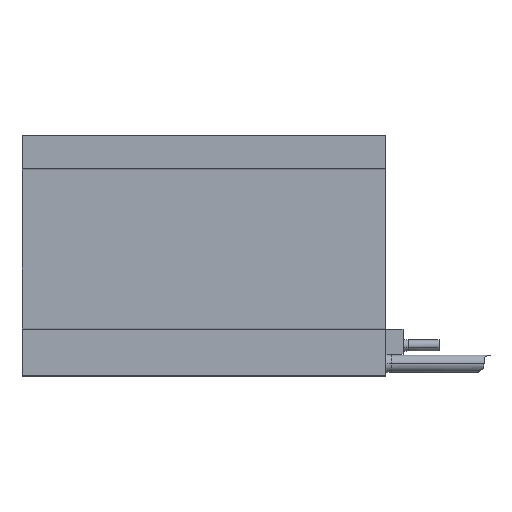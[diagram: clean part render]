
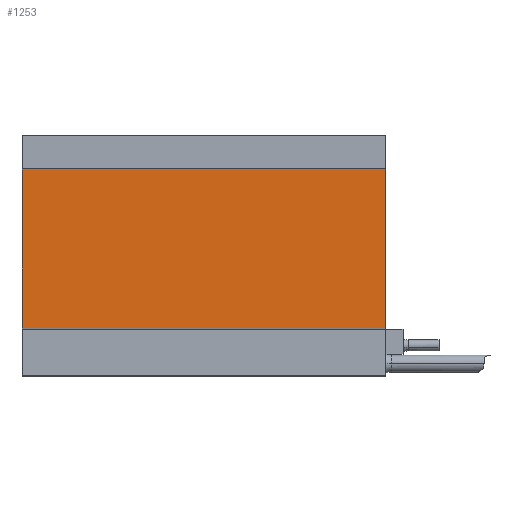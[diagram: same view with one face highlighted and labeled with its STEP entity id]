
A CAD part, top view. The second image highlights one B-rep face of the part: STEP entity #1253.
In plain terms, the highlighted planar face has unit normal (0, 0, 1).
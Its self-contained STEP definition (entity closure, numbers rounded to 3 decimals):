
#248 = VERTEX_POINT ( 'NONE', #6611 ) ;
#374 = CARTESIAN_POINT ( 'NONE',  ( -84.097, 66.803, 43.079 ) ) ;
#780 = LINE ( 'NONE', #4040, #3383 ) ;
#1253 = ADVANCED_FACE ( 'NONE', ( #6892 ), #4596, .F. ) ;
#1562 = DIRECTION ( 'NONE',  ( 1., 0., 0. ) ) ;
#1975 = EDGE_CURVE ( 'NONE', #248, #4312, #2451, .T. ) ;
#2404 = VECTOR ( 'NONE', #6056, 1000. ) ;
#2451 = LINE ( 'NONE', #5934, #5513 ) ;
#2463 = VERTEX_POINT ( 'NONE', #7461 ) ;
#2677 = LINE ( 'NONE', #374, #6381 ) ;
#2958 = EDGE_CURVE ( 'NONE', #3558, #248, #780, .T. ) ;
#3029 = CARTESIAN_POINT ( 'NONE',  ( 36.903, 66.803, 43.079 ) ) ;
#3037 = ORIENTED_EDGE ( 'NONE', *, *, #2958, .F. ) ;
#3142 = EDGE_LOOP ( 'NONE', ( #4937, #3037, #7105, #5506 ) ) ;
#3383 = VECTOR ( 'NONE', #6950, 1000. ) ;
#3558 = VERTEX_POINT ( 'NONE', #7013 ) ;
#4040 = CARTESIAN_POINT ( 'NONE',  ( -84.097, 119.703, 43.079 ) ) ;
#4312 = VERTEX_POINT ( 'NONE', #3029 ) ;
#4596 = PLANE ( 'NONE',  #4654 ) ;
#4654 = AXIS2_PLACEMENT_3D ( 'NONE', #6754, #7435, #6327 ) ;
#4838 = LINE ( 'NONE', #5980, #2404 ) ;
#4914 = EDGE_CURVE ( 'NONE', #3558, #2463, #4838, .T. ) ;
#4937 = ORIENTED_EDGE ( 'NONE', *, *, #1975, .F. ) ;
#5432 = DIRECTION ( 'NONE',  ( 0., -1., 0. ) ) ;
#5506 = ORIENTED_EDGE ( 'NONE', *, *, #5879, .T. ) ;
#5513 = VECTOR ( 'NONE', #5432, 1000. ) ;
#5879 = EDGE_CURVE ( 'NONE', #2463, #4312, #2677, .T. ) ;
#5934 = CARTESIAN_POINT ( 'NONE',  ( 36.903, 66.803, 43.079 ) ) ;
#5980 = CARTESIAN_POINT ( 'NONE',  ( -84.097, 66.803, 43.079 ) ) ;
#6056 = DIRECTION ( 'NONE',  ( 0., -1., 0. ) ) ;
#6327 = DIRECTION ( 'NONE',  ( 0., 1., 0. ) ) ;
#6381 = VECTOR ( 'NONE', #1562, 1000. ) ;
#6611 = CARTESIAN_POINT ( 'NONE',  ( 36.903, 119.703, 43.079 ) ) ;
#6754 = CARTESIAN_POINT ( 'NONE',  ( -84.097, 66.803, 43.079 ) ) ;
#6892 = FACE_OUTER_BOUND ( 'NONE', #3142, .T. ) ;
#6950 = DIRECTION ( 'NONE',  ( 1., 0., 0. ) ) ;
#7013 = CARTESIAN_POINT ( 'NONE',  ( -84.097, 119.703, 43.079 ) ) ;
#7105 = ORIENTED_EDGE ( 'NONE', *, *, #4914, .T. ) ;
#7435 = DIRECTION ( 'NONE',  ( 0., 0., -1. ) ) ;
#7461 = CARTESIAN_POINT ( 'NONE',  ( -84.097, 66.803, 43.079 ) ) ;
